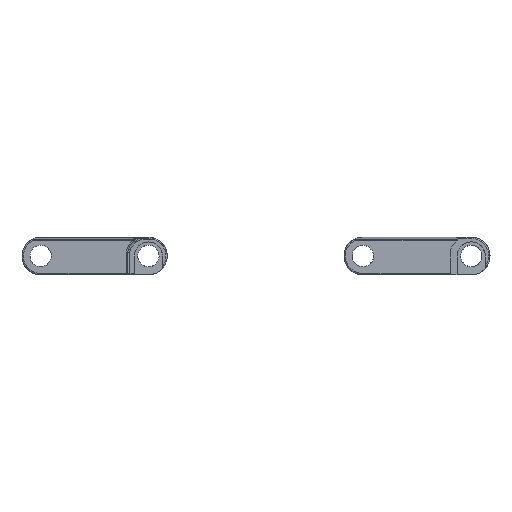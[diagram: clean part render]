
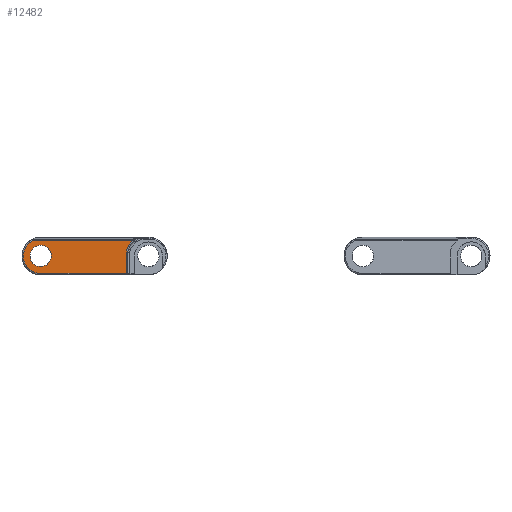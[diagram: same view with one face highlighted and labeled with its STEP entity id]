
A CAD part, front view. The second image highlights one B-rep face of the part: STEP entity #12482.
In plain terms, the highlighted planar face has unit normal (0, -0.999, -0.035).
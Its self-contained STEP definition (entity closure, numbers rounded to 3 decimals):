
#10258=B_SPLINE_CURVE_WITH_KNOTS('',3,(#44517,#44518,#44519,#44520,#44521,
#44522,#44523,#44524,#44525,#44526,#44527,#44528,#44529,#44530),
 .UNSPECIFIED.,.F.,.F.,(4,1,1,1,1,1,1,1,1,1,1,4),(0.,0.091,0.182,
0.273,0.364,0.455,0.545,0.636,
0.727,0.818,0.909,1.),.UNSPECIFIED.);
#10263=B_SPLINE_CURVE_WITH_KNOTS('',3,(#44715,#44716,#44717,#44718),
 .UNSPECIFIED.,.F.,.F.,(4,4),(0.,1.),.UNSPECIFIED.);
#10720=FACE_BOUND('',#15374,.T.);
#10721=FACE_BOUND('',#15375,.T.);
#12482=ADVANCED_FACE('',(#10720,#10721),#13638,.F.);
#13638=PLANE('',#32078);
#15374=EDGE_LOOP('',(#18912,#18913));
#15375=EDGE_LOOP('',(#18914,#18915,#18916,#18917,#18918,#18919));
#16768=ELLIPSE('',#32074,2.506,2.504);
#16769=ELLIPSE('',#32075,2.506,2.504);
#16770=ELLIPSE('',#32076,2.26,2.259);
#16771=ELLIPSE('',#32077,4.805,4.802);
#18912=ORIENTED_EDGE('',*,*,#26860,.T.);
#18913=ORIENTED_EDGE('',*,*,#26861,.T.);
#18914=ORIENTED_EDGE('',*,*,#26862,.T.);
#18915=ORIENTED_EDGE('',*,*,#26835,.T.);
#18916=ORIENTED_EDGE('',*,*,#26863,.T.);
#18917=ORIENTED_EDGE('',*,*,#26864,.T.);
#18918=ORIENTED_EDGE('',*,*,#26865,.T.);
#18919=ORIENTED_EDGE('',*,*,#26866,.T.);
#24601=VERTEX_POINT('',#44516);
#24602=VERTEX_POINT('',#44531);
#24626=VERTEX_POINT('',#44710);
#24627=VERTEX_POINT('',#44711);
#24628=VERTEX_POINT('',#44714);
#24629=VERTEX_POINT('',#44719);
#24630=VERTEX_POINT('',#44721);
#24631=VERTEX_POINT('',#44723);
#26835=EDGE_CURVE('',#24602,#24601,#10258,.T.);
#26860=EDGE_CURVE('',#24626,#24627,#16768,.T.);
#26861=EDGE_CURVE('',#24627,#24626,#16769,.T.);
#26862=EDGE_CURVE('',#24628,#24602,#29734,.T.);
#26863=EDGE_CURVE('',#24601,#24629,#10263,.T.);
#26864=EDGE_CURVE('',#24629,#24630,#29735,.T.);
#26865=EDGE_CURVE('',#24630,#24631,#16770,.T.);
#26866=EDGE_CURVE('',#24631,#24628,#16771,.T.);
#29734=LINE('',#44713,#30780);
#29735=LINE('',#44720,#30781);
#30780=VECTOR('',#35696,1.);
#30781=VECTOR('',#35697,1.);
#32074=AXIS2_PLACEMENT_3D('',#44709,#35692,#35693);
#32075=AXIS2_PLACEMENT_3D('',#44712,#35694,#35695);
#32076=AXIS2_PLACEMENT_3D('',#44722,#35698,#35699);
#32077=AXIS2_PLACEMENT_3D('',#44724,#35700,#35701);
#32078=AXIS2_PLACEMENT_3D('',#44725,#35702,#35703);
#35692=DIRECTION('',(0.,0.999,0.035));
#35693=DIRECTION('',(0.,0.035,-0.999));
#35694=DIRECTION('',(0.,0.999,0.035));
#35695=DIRECTION('',(0.,0.035,-0.999));
#35696=DIRECTION('',(-1.,0.,0.));
#35697=DIRECTION('',(0.,-0.035,0.999));
#35698=DIRECTION('',(0.,0.999,0.035));
#35699=DIRECTION('',(0.,-0.035,0.999));
#35700=DIRECTION('',(0.,0.999,0.035));
#35701=DIRECTION('',(0.,-0.035,0.999));
#35702=DIRECTION('',(0.,0.999,0.035));
#35703=DIRECTION('',(-1.,0.,0.));
#44516=CARTESIAN_POINT('',(50.309,15.091,-4.117));
#44517=CARTESIAN_POINT('',(48.414,14.82,3.633));
#44518=CARTESIAN_POINT('',(48.114,14.826,3.477));
#44519=CARTESIAN_POINT('',(47.572,14.839,3.104));
#44520=CARTESIAN_POINT('',(46.902,14.865,2.355));
#44521=CARTESIAN_POINT('',(46.435,14.896,1.469));
#44522=CARTESIAN_POINT('',(46.193,14.93,0.497));
#44523=CARTESIAN_POINT('',(46.192,14.965,-0.505));
#44524=CARTESIAN_POINT('',(46.43,14.999,-1.478));
#44525=CARTESIAN_POINT('',(46.895,15.03,-2.365));
#44526=CARTESIAN_POINT('',(47.559,15.056,-3.114));
#44527=CARTESIAN_POINT('',(48.383,15.076,-3.683));
#44528=CARTESIAN_POINT('',(49.324,15.088,-4.038));
#44529=CARTESIAN_POINT('',(49.974,15.091,-4.117));
#44530=CARTESIAN_POINT('',(50.309,15.091,-4.117));
#44531=CARTESIAN_POINT('',(48.414,14.82,3.633));
#44709=CARTESIAN_POINT('',(50.309,14.947,0.));
#44710=CARTESIAN_POINT('',(52.813,14.947,0.));
#44711=CARTESIAN_POINT('',(47.805,14.947,0.));
#44712=CARTESIAN_POINT('',(50.309,14.947,0.));
#44713=CARTESIAN_POINT('',(72.415,14.82,3.633));
#44714=CARTESIAN_POINT('',(72.001,14.82,3.633));
#44715=CARTESIAN_POINT('',(50.309,15.091,-4.117));
#44716=CARTESIAN_POINT('',(57.039,15.091,-4.115));
#44717=CARTESIAN_POINT('',(63.769,15.091,-4.114));
#44718=CARTESIAN_POINT('',(70.498,15.091,-4.112));
#44719=CARTESIAN_POINT('',(70.498,15.091,-4.112));
#44720=CARTESIAN_POINT('',(70.498,14.915,0.915));
#44721=CARTESIAN_POINT('',(70.498,14.915,0.905));
#44722=CARTESIAN_POINT('',(72.757,14.915,0.905));
#44723=CARTESIAN_POINT('',(70.649,14.887,1.717));
#44724=CARTESIAN_POINT('',(75.13,14.947,-0.01));
#44725=CARTESIAN_POINT('',(74.911,14.81,3.91));
